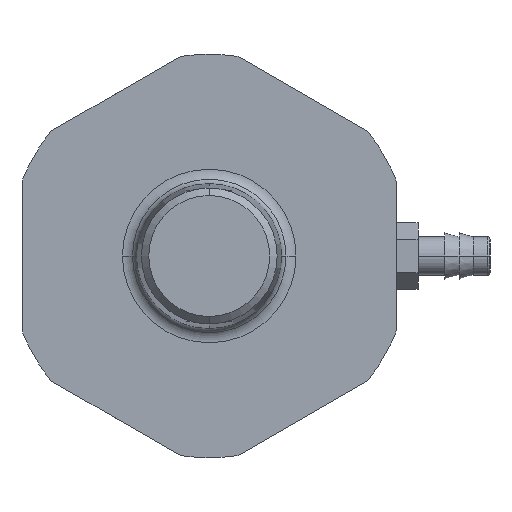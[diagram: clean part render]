
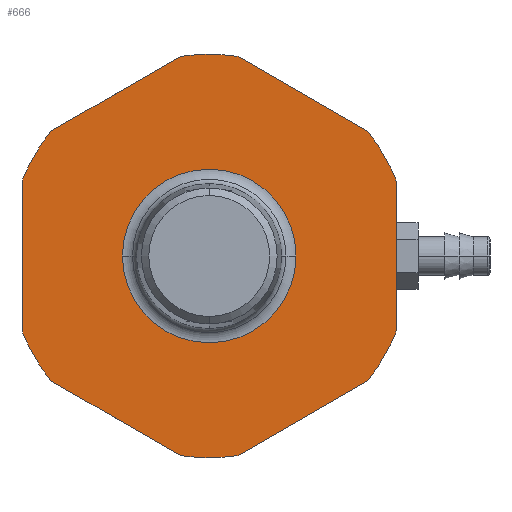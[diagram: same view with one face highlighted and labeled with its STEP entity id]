
A CAD part, left-side view. The second image highlights one B-rep face of the part: STEP entity #666.
In plain terms, the highlighted planar face has unit normal (-1, 0, 0).
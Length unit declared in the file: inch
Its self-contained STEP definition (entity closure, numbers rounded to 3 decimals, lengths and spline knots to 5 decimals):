
#200=CARTESIAN_POINT('',(-2.875,0.,0.));
#201=DIRECTION('',(-1.,0.,0.));
#202=DIRECTION('',(0.,0.143,-0.99));
#203=AXIS2_PLACEMENT_3D('',#200,#201,#202);
#205=DIRECTION('',(0.,-0.866,-0.5));
#206=VECTOR('',#205,0.64952);
#207=CARTESIAN_POINT('',(-2.875,0.6875,-0.54127));
#208=LINE('',#207,#206);
#209=CARTESIAN_POINT('',(-2.875,0.,0.));
#210=DIRECTION('',(-1.,0.,0.));
#211=DIRECTION('',(0.,0.866,-0.5));
#212=AXIS2_PLACEMENT_3D('',#209,#210,#211);
#214=CARTESIAN_POINT('',(-2.875,0.,0.));
#215=DIRECTION('',(-1.,0.,0.));
#216=DIRECTION('',(0.,0.929,-0.371));
#217=AXIS2_PLACEMENT_3D('',#214,#215,#216);
#219=DIRECTION('',(0.,0.,-1.));
#220=VECTOR('',#219,0.64952);
#221=CARTESIAN_POINT('',(-2.875,0.8125,0.32476));
#222=LINE('',#221,#220);
#223=CARTESIAN_POINT('',(-2.875,0.,0.));
#224=DIRECTION('',(-1.,0.,0.));
#225=DIRECTION('',(0.,0.866,0.5));
#226=AXIS2_PLACEMENT_3D('',#223,#224,#225);
#228=CARTESIAN_POINT('',(-2.875,0.,0.));
#229=DIRECTION('',(-1.,0.,0.));
#230=DIRECTION('',(0.,0.786,0.619));
#231=AXIS2_PLACEMENT_3D('',#228,#229,#230);
#233=DIRECTION('',(0.,0.866,-0.5));
#234=VECTOR('',#233,0.64952);
#235=CARTESIAN_POINT('',(-2.875,0.125,0.86603));
#236=LINE('',#235,#234);
#237=CARTESIAN_POINT('',(-2.875,0.,0.));
#238=DIRECTION('',(-1.,0.,0.));
#239=DIRECTION('',(0.,0.,1.));
#240=AXIS2_PLACEMENT_3D('',#237,#238,#239);
#242=CARTESIAN_POINT('',(-2.875,0.,0.));
#243=DIRECTION('',(-1.,0.,0.));
#244=DIRECTION('',(0.,-0.143,0.99));
#245=AXIS2_PLACEMENT_3D('',#242,#243,#244);
#247=DIRECTION('',(0.,0.866,0.5));
#248=VECTOR('',#247,0.64952);
#249=CARTESIAN_POINT('',(-2.875,-0.6875,0.54127));
#250=LINE('',#249,#248);
#251=CARTESIAN_POINT('',(-2.875,0.,0.));
#252=DIRECTION('',(-1.,0.,0.));
#253=DIRECTION('',(0.,-0.866,0.5));
#254=AXIS2_PLACEMENT_3D('',#251,#252,#253);
#256=CARTESIAN_POINT('',(-2.875,0.,0.));
#257=DIRECTION('',(-1.,0.,0.));
#258=DIRECTION('',(0.,-0.929,0.371));
#259=AXIS2_PLACEMENT_3D('',#256,#257,#258);
#261=DIRECTION('',(0.,0.,1.));
#262=VECTOR('',#261,0.64952);
#263=CARTESIAN_POINT('',(-2.875,-0.8125,-0.32476));
#264=LINE('',#263,#262);
#265=CARTESIAN_POINT('',(-2.875,0.,0.));
#266=DIRECTION('',(-1.,0.,0.));
#267=DIRECTION('',(0.,-0.866,-0.5));
#268=AXIS2_PLACEMENT_3D('',#265,#266,#267);
#270=CARTESIAN_POINT('',(-2.875,0.,0.));
#271=DIRECTION('',(-1.,0.,0.));
#272=DIRECTION('',(0.,-0.786,-0.619));
#273=AXIS2_PLACEMENT_3D('',#270,#271,#272);
#275=DIRECTION('',(0.,-0.866,0.5));
#276=VECTOR('',#275,0.64952);
#277=CARTESIAN_POINT('',(-2.875,-0.125,-0.86603));
#278=LINE('',#277,#276);
#279=CARTESIAN_POINT('',(-2.875,0.,0.));
#280=DIRECTION('',(-1.,0.,0.));
#281=DIRECTION('',(0.,0.,-1.));
#282=AXIS2_PLACEMENT_3D('',#279,#280,#281);
#284=CARTESIAN_POINT('',(-2.875,0.,0.));
#285=DIRECTION('',(1.,0.,0.));
#286=DIRECTION('',(0.,0.,1.));
#287=AXIS2_PLACEMENT_3D('',#284,#285,#286);
#289=CARTESIAN_POINT('',(-2.875,0.,0.));
#290=DIRECTION('',(1.,0.,0.));
#291=DIRECTION('',(0.,1.,0.));
#292=AXIS2_PLACEMENT_3D('',#289,#290,#291);
#294=CARTESIAN_POINT('',(-2.875,0.,0.));
#295=DIRECTION('',(1.,0.,0.));
#296=DIRECTION('',(0.,-1.,0.));
#297=AXIS2_PLACEMENT_3D('',#294,#295,#296);
#517=CARTESIAN_POINT('',(-2.875,0.,-0.875));
#518=CARTESIAN_POINT('',(-2.875,-0.125,-0.86603));
#519=VERTEX_POINT('',#517);
#520=VERTEX_POINT('',#518);
#521=CARTESIAN_POINT('',(-2.875,0.125,-0.86603));
#522=VERTEX_POINT('',#521);
#527=CARTESIAN_POINT('',(-2.875,-0.6875,-0.54127));
#528=VERTEX_POINT('',#527);
#529=CARTESIAN_POINT('',(-2.875,0.6875,-0.54127));
#530=VERTEX_POINT('',#529);
#535=CARTESIAN_POINT('',(-2.875,-0.75777,-0.4375));
#536=CARTESIAN_POINT('',(-2.875,-0.8125,-0.32476));
#537=VERTEX_POINT('',#535);
#538=VERTEX_POINT('',#536);
#539=CARTESIAN_POINT('',(-2.875,0.75777,-0.4375));
#540=VERTEX_POINT('',#539);
#541=CARTESIAN_POINT('',(-2.875,0.8125,-0.32476));
#542=VERTEX_POINT('',#541);
#549=CARTESIAN_POINT('',(-2.875,-0.8125,0.32476));
#550=VERTEX_POINT('',#549);
#551=CARTESIAN_POINT('',(-2.875,0.8125,0.32476));
#552=VERTEX_POINT('',#551);
#559=CARTESIAN_POINT('',(-2.875,-0.75777,0.4375));
#560=CARTESIAN_POINT('',(-2.875,-0.6875,0.54127));
#561=VERTEX_POINT('',#559);
#562=VERTEX_POINT('',#560);
#563=CARTESIAN_POINT('',(-2.875,0.75777,0.4375));
#564=VERTEX_POINT('',#563);
#565=CARTESIAN_POINT('',(-2.875,0.6875,0.54127));
#566=VERTEX_POINT('',#565);
#573=CARTESIAN_POINT('',(-2.875,-0.125,0.86603));
#574=VERTEX_POINT('',#573);
#575=CARTESIAN_POINT('',(-2.875,0.125,0.86603));
#576=VERTEX_POINT('',#575);
#583=CARTESIAN_POINT('',(-2.875,0.,0.875));
#584=VERTEX_POINT('',#583);
#597=CARTESIAN_POINT('',(-2.875,0.37658,0.));
#598=VERTEX_POINT('',#597);
#599=CARTESIAN_POINT('',(-2.875,-0.37658,0.));
#600=VERTEX_POINT('',#599);
#601=CARTESIAN_POINT('',(-2.875,0.,0.37658));
#602=VERTEX_POINT('',#601);
#615=CARTESIAN_POINT('',(-2.875,0.,0.));
#616=DIRECTION('',(-1.,0.,0.));
#617=DIRECTION('',(0.,0.,1.));
#618=AXIS2_PLACEMENT_3D('',#615,#616,#617);
#619=PLANE('',#618);
#621=ORIENTED_EDGE('',*,*,#620,.F.);
#623=ORIENTED_EDGE('',*,*,#622,.F.);
#625=ORIENTED_EDGE('',*,*,#624,.F.);
#627=ORIENTED_EDGE('',*,*,#626,.F.);
#629=ORIENTED_EDGE('',*,*,#628,.F.);
#631=ORIENTED_EDGE('',*,*,#630,.F.);
#633=ORIENTED_EDGE('',*,*,#632,.F.);
#635=ORIENTED_EDGE('',*,*,#634,.F.);
#637=ORIENTED_EDGE('',*,*,#636,.F.);
#639=ORIENTED_EDGE('',*,*,#638,.F.);
#641=ORIENTED_EDGE('',*,*,#640,.F.);
#643=ORIENTED_EDGE('',*,*,#642,.F.);
#645=ORIENTED_EDGE('',*,*,#644,.F.);
#647=ORIENTED_EDGE('',*,*,#646,.F.);
#649=ORIENTED_EDGE('',*,*,#648,.F.);
#651=ORIENTED_EDGE('',*,*,#650,.F.);
#653=ORIENTED_EDGE('',*,*,#652,.F.);
#655=ORIENTED_EDGE('',*,*,#654,.F.);
#656=EDGE_LOOP('',(#621,#623,#625,#627,#629,#631,#633,#635,#637,#639,#641,#643,
#645,#647,#649,#651,#653,#655));
#657=FACE_OUTER_BOUND('',#656,.F.);
#659=ORIENTED_EDGE('',*,*,#658,.F.);
#661=ORIENTED_EDGE('',*,*,#660,.F.);
#663=ORIENTED_EDGE('',*,*,#662,.F.);
#664=EDGE_LOOP('',(#659,#661,#663));
#665=FACE_BOUND('',#664,.F.);
#204=CIRCLE('',#203,0.875);
#213=CIRCLE('',#212,0.875);
#218=CIRCLE('',#217,0.875);
#227=CIRCLE('',#226,0.875);
#232=CIRCLE('',#231,0.875);
#241=CIRCLE('',#240,0.875);
#246=CIRCLE('',#245,0.875);
#255=CIRCLE('',#254,0.875);
#260=CIRCLE('',#259,0.875);
#269=CIRCLE('',#268,0.875);
#274=CIRCLE('',#273,0.875);
#283=CIRCLE('',#282,0.875);
#288=CIRCLE('',#287,0.37658);
#293=CIRCLE('',#292,0.37658);
#298=CIRCLE('',#297,0.37658);
#620=EDGE_CURVE('',#522,#519,#204,.T.);
#622=EDGE_CURVE('',#530,#522,#208,.T.);
#624=EDGE_CURVE('',#540,#530,#213,.T.);
#626=EDGE_CURVE('',#542,#540,#218,.T.);
#628=EDGE_CURVE('',#552,#542,#222,.T.);
#630=EDGE_CURVE('',#564,#552,#227,.T.);
#632=EDGE_CURVE('',#566,#564,#232,.T.);
#634=EDGE_CURVE('',#576,#566,#236,.T.);
#636=EDGE_CURVE('',#584,#576,#241,.T.);
#638=EDGE_CURVE('',#574,#584,#246,.T.);
#640=EDGE_CURVE('',#562,#574,#250,.T.);
#642=EDGE_CURVE('',#561,#562,#255,.T.);
#644=EDGE_CURVE('',#550,#561,#260,.T.);
#646=EDGE_CURVE('',#538,#550,#264,.T.);
#648=EDGE_CURVE('',#537,#538,#269,.T.);
#650=EDGE_CURVE('',#528,#537,#274,.T.);
#652=EDGE_CURVE('',#520,#528,#278,.T.);
#654=EDGE_CURVE('',#519,#520,#283,.T.);
#658=EDGE_CURVE('',#602,#600,#288,.T.);
#660=EDGE_CURVE('',#598,#602,#293,.T.);
#662=EDGE_CURVE('',#600,#598,#298,.T.);
#666=ADVANCED_FACE('',(#657,#665),#619,.T.);
